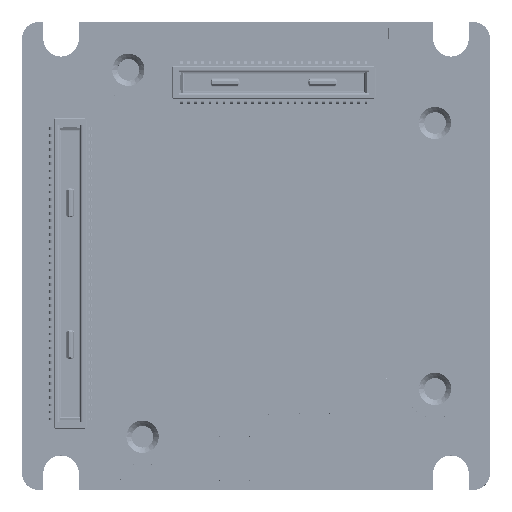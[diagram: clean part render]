
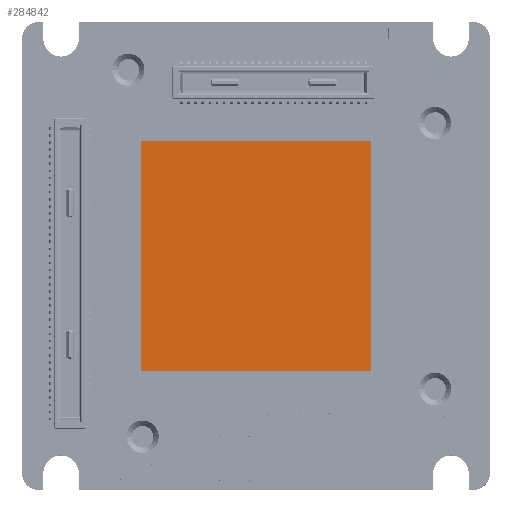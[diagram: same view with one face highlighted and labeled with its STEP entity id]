
A CAD part, top view. The second image highlights one B-rep face of the part: STEP entity #284842.
In plain terms, the highlighted planar face has unit normal (0, 0, 1).
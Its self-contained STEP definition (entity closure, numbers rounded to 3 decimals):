
#1516 = EDGE_CURVE ( 'NONE', #45801, #614781, #62805, .T. ) ;
#24219 = PLANE ( 'NONE',  #110299 ) ;
#27970 = CARTESIAN_POINT ( 'NONE',  ( 0., 0., 6.162 ) ) ;
#45801 = VERTEX_POINT ( 'NONE', #473367 ) ;
#50566 = DIRECTION ( 'NONE',  ( 1., 0., 0. ) ) ;
#53233 = EDGE_LOOP ( 'NONE', ( #214450, #159838, #205036, #401196 ) ) ;
#60271 = EDGE_CURVE ( 'NONE', #558892, #45801, #93505, .T. ) ;
#62805 = LINE ( 'NONE', #631674, #71798 ) ;
#71798 = VECTOR ( 'NONE', #293917, 1000. ) ;
#93505 = LINE ( 'NONE', #670085, #510794 ) ;
#109993 = CARTESIAN_POINT ( 'NONE',  ( -6.5, 6.5, 6.162 ) ) ;
#110299 = AXIS2_PLACEMENT_3D ( 'NONE', #27970, #258969, #600519 ) ;
#141498 = EDGE_CURVE ( 'NONE', #614781, #185098, #561624, .T. ) ;
#159838 = ORIENTED_EDGE ( 'NONE', *, *, #60271, .F. ) ;
#185098 = VERTEX_POINT ( 'NONE', #109993 ) ;
#203222 = CARTESIAN_POINT ( 'NONE',  ( -6.5, 6.5, 6.162 ) ) ;
#205036 = ORIENTED_EDGE ( 'NONE', *, *, #464260, .F. ) ;
#208946 = DIRECTION ( 'NONE',  ( 0., 1., 0. ) ) ;
#214450 = ORIENTED_EDGE ( 'NONE', *, *, #1516, .F. ) ;
#244747 = VECTOR ( 'NONE', #50566, 1000. ) ;
#258969 = DIRECTION ( 'NONE',  ( 0., 0., -1. ) ) ;
#284842 = ADVANCED_FACE ( 'NONE', ( #304691 ), #24219, .F. ) ;
#293917 = DIRECTION ( 'NONE',  ( -1., 0., 0. ) ) ;
#304691 = FACE_OUTER_BOUND ( 'NONE', #53233, .T. ) ;
#328419 = DIRECTION ( 'NONE',  ( 0., -1., 0. ) ) ;
#333936 = CARTESIAN_POINT ( 'NONE',  ( -6.5, -6.5, 6.162 ) ) ;
#351251 = VECTOR ( 'NONE', #208946, 1000. ) ;
#391718 = LINE ( 'NONE', #203222, #244747 ) ;
#401196 = ORIENTED_EDGE ( 'NONE', *, *, #141498, .F. ) ;
#455505 = CARTESIAN_POINT ( 'NONE',  ( -6.5, -6.5, 6.162 ) ) ;
#464260 = EDGE_CURVE ( 'NONE', #185098, #558892, #391718, .T. ) ;
#473367 = CARTESIAN_POINT ( 'NONE',  ( 6.5, -6.5, 6.162 ) ) ;
#478000 = CARTESIAN_POINT ( 'NONE',  ( 6.5, 6.5, 6.162 ) ) ;
#510794 = VECTOR ( 'NONE', #328419, 1000. ) ;
#558892 = VERTEX_POINT ( 'NONE', #478000 ) ;
#561624 = LINE ( 'NONE', #333936, #351251 ) ;
#600519 = DIRECTION ( 'NONE',  ( 0., -1., 0. ) ) ;
#614781 = VERTEX_POINT ( 'NONE', #455505 ) ;
#631674 = CARTESIAN_POINT ( 'NONE',  ( 6.5, -6.5, 6.162 ) ) ;
#670085 = CARTESIAN_POINT ( 'NONE',  ( 6.5, 6.5, 6.162 ) ) ;
